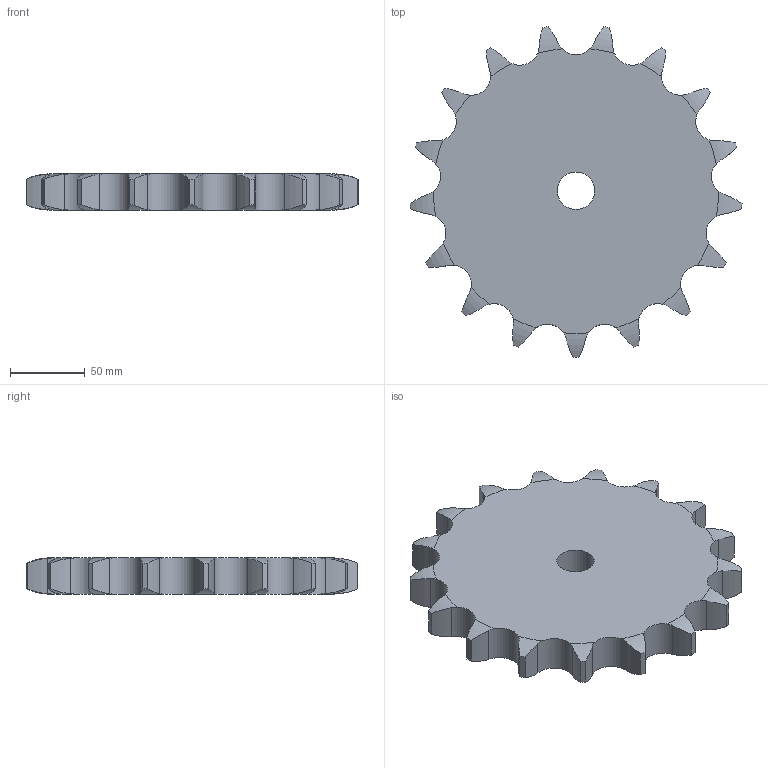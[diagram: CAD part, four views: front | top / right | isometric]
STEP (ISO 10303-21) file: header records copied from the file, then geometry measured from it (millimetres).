
FILE_DESCRIPTION((''),'2;1');
FILE_NAME('500-701-0017_PRT','2021-02-12T',('Brieden'),('Brieden'),'PRO/ENGINEER BY PARAMETRIC TECHNOLOGY CORPORATION, 2010160','PRO/ENGINEER BY PARAMETRIC TECHNOLOGY CORPORATION, 2010160','');
FILE_SCHEMA(('AUTOMOTIVE_DESIGN { 1 0 10303 214 1 1 1 1 }'));
Length unit declared in the file: millimetre
Products named in the file (1): 500-701-0017_PRT
Bounding box: 221.66 x 220.73 x 24.1 mm (x, y, z)
Volume: 714930.2 mm3; surface area: 84280.4 mm2
Topology: 1 solids, 1 shells, 106 faces, 312 edges, 208 vertices
Faces by surface type: cylinder 70, torus 34, plane 2
Entity records: 5252 total; most frequent: CARTESIAN_POINT 1581, ORIENTED_EDGE 624, DIRECTION 494, PRESENTATION_STYLE_ASSIGNMENT 313, STYLED_ITEM 313, CURVE_STYLE 312, EDGE_CURVE 312, AXIS2_PLACEMENT_3D 212
